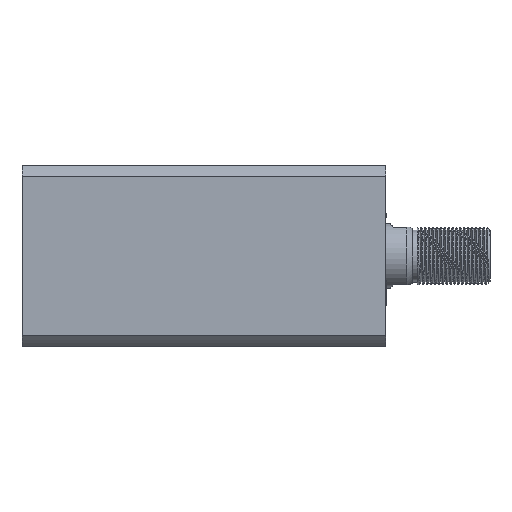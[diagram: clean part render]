
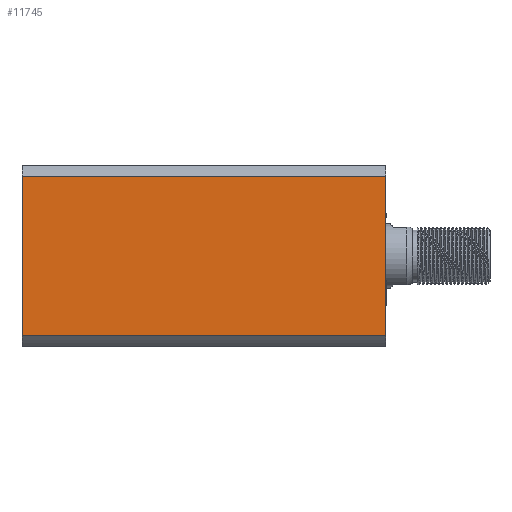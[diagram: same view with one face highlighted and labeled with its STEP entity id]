
A CAD part, left-side view. The second image highlights one B-rep face of the part: STEP entity #11745.
In plain terms, the highlighted planar face has unit normal (-1, 0, 0).
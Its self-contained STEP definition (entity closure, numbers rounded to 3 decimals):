
#697 = LINE ( 'NONE', #4441, #3193 ) ;
#1449 = LINE ( 'NONE', #12103, #9543 ) ;
#1511 = FACE_OUTER_BOUND ( 'NONE', #5718, .T. ) ;
#1627 = ORIENTED_EDGE ( 'NONE', *, *, #11081, .F. ) ;
#1692 = LINE ( 'NONE', #6601, #6627 ) ;
#2411 = EDGE_CURVE ( 'NONE', #10558, #8884, #1449, .T. ) ;
#2540 = CARTESIAN_POINT ( 'NONE',  ( -35., -30.615, 0. ) ) ;
#2837 = LINE ( 'NONE', #8740, #8112 ) ;
#2865 = DIRECTION ( 'NONE',  ( 0., 1., 0. ) ) ;
#3193 = VECTOR ( 'NONE', #11836, 1000. ) ;
#4108 = EDGE_CURVE ( 'NONE', #13382, #8508, #2837, .T. ) ;
#4441 = CARTESIAN_POINT ( 'NONE',  ( -35., 30.615, 300. ) ) ;
#5645 = CARTESIAN_POINT ( 'NONE',  ( -35., 30.615, 0. ) ) ;
#5718 = EDGE_LOOP ( 'NONE', ( #1627, #12878, #7554, #8235 ) ) ;
#6601 = CARTESIAN_POINT ( 'NONE',  ( -35., -30.615, 300. ) ) ;
#6627 = VECTOR ( 'NONE', #12950, 1000. ) ;
#6803 = DIRECTION ( 'NONE',  ( 0., -1., 0. ) ) ;
#7045 = CARTESIAN_POINT ( 'NONE',  ( -35., 35., 140. ) ) ;
#7554 = ORIENTED_EDGE ( 'NONE', *, *, #10129, .F. ) ;
#8112 = VECTOR ( 'NONE', #8778, 1000. ) ;
#8235 = ORIENTED_EDGE ( 'NONE', *, *, #2411, .T. ) ;
#8508 = VERTEX_POINT ( 'NONE', #13687 ) ;
#8740 = CARTESIAN_POINT ( 'NONE',  ( -35., 35., 140. ) ) ;
#8778 = DIRECTION ( 'NONE',  ( 0., -1., 0. ) ) ;
#8882 = CARTESIAN_POINT ( 'NONE',  ( -35., 30.615, 140. ) ) ;
#8884 = VERTEX_POINT ( 'NONE', #2540 ) ;
#9170 = DIRECTION ( 'NONE',  ( 1., 0., 0. ) ) ;
#9543 = VECTOR ( 'NONE', #6803, 1000. ) ;
#9882 = AXIS2_PLACEMENT_3D ( 'NONE', #7045, #9170, #2865 ) ;
#10129 = EDGE_CURVE ( 'NONE', #10558, #13382, #697, .T. ) ;
#10558 = VERTEX_POINT ( 'NONE', #5645 ) ;
#11081 = EDGE_CURVE ( 'NONE', #8508, #8884, #1692, .T. ) ;
#11745 = ADVANCED_FACE ( 'NONE', ( #1511 ), #12332, .F. ) ;
#11836 = DIRECTION ( 'NONE',  ( 0., 0., 1. ) ) ;
#12103 = CARTESIAN_POINT ( 'NONE',  ( -35., 35., 0. ) ) ;
#12332 = PLANE ( 'NONE',  #9882 ) ;
#12878 = ORIENTED_EDGE ( 'NONE', *, *, #4108, .F. ) ;
#12950 = DIRECTION ( 'NONE',  ( 0., 0., -1. ) ) ;
#13382 = VERTEX_POINT ( 'NONE', #8882 ) ;
#13687 = CARTESIAN_POINT ( 'NONE',  ( -35., -30.615, 140. ) ) ;
